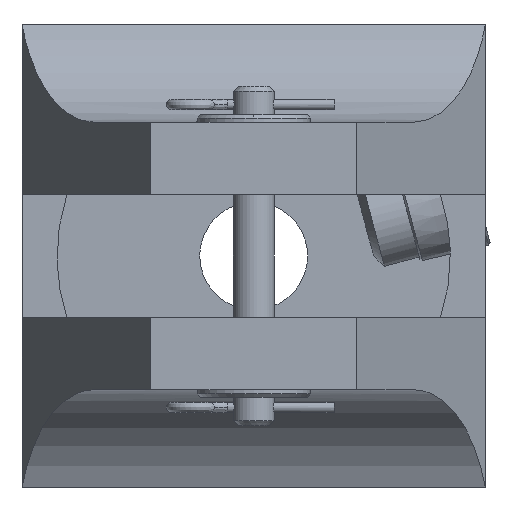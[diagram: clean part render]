
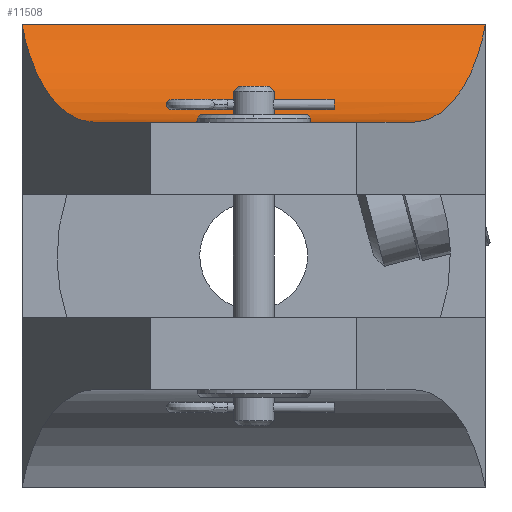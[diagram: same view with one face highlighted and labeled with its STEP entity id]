
A CAD part, front view. The second image highlights one B-rep face of the part: STEP entity #11508.
In plain terms, the highlighted cylindrical face has radius 14 mm (diameter 28 mm), a partial arc.
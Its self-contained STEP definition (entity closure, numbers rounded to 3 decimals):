
#589 = CARTESIAN_POINT ( 'NONE',  ( -199.017, 14.008, -107.137 ) ) ;
#600 = B_SPLINE_CURVE_WITH_KNOTS ( 'NONE', 3,
 ( #14745, #4829, #7685, #17612, #9119, #589, #10522, #2022, #11946, #3444, #13375, #4889, #14801, #6316, #16244, #7747, #17669, #9168, #644, #10577, #2072, #11999, #3503, #13431, #4941, #14857 ),
 .UNSPECIFIED., .F., .F.,
 ( 4, 2, 2, 2, 2, 2, 2, 2, 2, 2, 2, 2, 4 ),
 ( 0., 0.002, 0.004, 0.005, 0.006, 0.007, 0.008, 0.01, 0.011, 0.012, 0.013, 0.014, 0.015 ),
 .UNSPECIFIED. ) ;
#644 = CARTESIAN_POINT ( 'NONE',  ( -191.628, 13.42, -107.266 ) ) ;
#702 = CYLINDRICAL_SURFACE ( 'NONE', #11587, 14. ) ;
#781 = VECTOR ( 'NONE', #4514, 1000. ) ;
#919 = CARTESIAN_POINT ( 'NONE',  ( -218.467, 10.743, -93.522 ) ) ;
#1340 = CARTESIAN_POINT ( 'NONE',  ( -180.102, 10.743, -107.522 ) ) ;
#1401 = CARTESIAN_POINT ( 'NONE',  ( -173.197, 24., -98.022 ) ) ;
#1598 = CARTESIAN_POINT ( 'NONE',  ( -211.48, 10.743, -107.522 ) ) ;
#2022 = CARTESIAN_POINT ( 'NONE',  ( -198.185, 14.469, -107.018 ) ) ;
#2072 = CARTESIAN_POINT ( 'NONE',  ( -190.982, 12.725, -107.384 ) ) ;
#2262 = VECTOR ( 'NONE', #12049, 1000. ) ;
#2343 = DIRECTION ( 'NONE',  ( 1., 0., 0. ) ) ;
#2718 = LINE ( 'NONE', #13492, #2262 ) ;
#2842 = DIRECTION ( 'NONE',  ( -1., 0., 0. ) ) ;
#3026 = CARTESIAN_POINT ( 'NONE',  ( -180.102, 10.743, -107.522 ) ) ;
#3444 = CARTESIAN_POINT ( 'NONE',  ( -197.285, 14.795, -106.923 ) ) ;
#3503 = CARTESIAN_POINT ( 'NONE',  ( -190.448, 11.924, -107.475 ) ) ;
#4038 = FACE_OUTER_BOUND ( 'NONE', #8846, .T. ) ;
#4150 = CARTESIAN_POINT ( 'NONE',  ( -218.197, 24., -98.022 ) ) ;
#4463 =( BOUNDED_CURVE ( )  B_SPLINE_CURVE ( 3, ( #6953, #5522, #8391, #18303 ),
 .UNSPECIFIED., .F., .F. ) 
 B_SPLINE_CURVE_WITH_KNOTS ( ( 4, 4 ),
 ( 1.571, 2.814 ),
 .UNSPECIFIED. ) 
 CURVE ( )  GEOMETRIC_REPRESENTATION_ITEM ( )  RATIONAL_B_SPLINE_CURVE ( ( 1., 0.875, 0.875, 1. ) ) 
 REPRESENTATION_ITEM ( '' )  );
#4514 = DIRECTION ( 'NONE',  ( -1., 0., 0. ) ) ;
#4599 = LINE ( 'NONE', #1598, #781 ) ;
#4719 = VERTEX_POINT ( 'NONE', #4150 ) ;
#4829 = CARTESIAN_POINT ( 'NONE',  ( -201.251, 11.362, -107.522 ) ) ;
#4889 = CARTESIAN_POINT ( 'NONE',  ( -196.34, 14.974, -106.868 ) ) ;
#4941 = CARTESIAN_POINT ( 'NONE',  ( -190.05, 11.052, -107.522 ) ) ;
#5522 = CARTESIAN_POINT ( 'NONE',  ( -214.528, 16.954, -107.522 ) ) ;
#5997 = VERTEX_POINT ( 'NONE', #3026 ) ;
#6316 = CARTESIAN_POINT ( 'NONE',  ( -195.05, 15., -106.859 ) ) ;
#6865 = ORIENTED_EDGE ( 'NONE', *, *, #10878, .T. ) ;
#6953 = CARTESIAN_POINT ( 'NONE',  ( -211.293, 10.743, -107.522 ) ) ;
#7543 = EDGE_CURVE ( 'NONE', #5997, #10408, #9252, .T. ) ;
#7570 =( BOUNDED_CURVE ( )  B_SPLINE_CURVE ( 3, ( #1340, #15557, #9906, #1401 ),
 .UNSPECIFIED., .F., .F. ) 
 B_SPLINE_CURVE_WITH_KNOTS ( ( 4, 4 ),
 ( 4.712, 5.956 ),
 .UNSPECIFIED. ) 
 CURVE ( )  GEOMETRIC_REPRESENTATION_ITEM ( )  RATIONAL_B_SPLINE_CURVE ( ( 1., 0.875, 0.875, 1. ) ) 
 REPRESENTATION_ITEM ( '' )  );
#7670 = EDGE_CURVE ( 'NONE', #17791, #17758, #4599, .T. ) ;
#7685 = CARTESIAN_POINT ( 'NONE',  ( -200.971, 11.933, -107.481 ) ) ;
#7747 = CARTESIAN_POINT ( 'NONE',  ( -193.201, 14.494, -107.012 ) ) ;
#8391 = CARTESIAN_POINT ( 'NONE',  ( -217.157, 22.003, -103.904 ) ) ;
#8637 = CARTESIAN_POINT ( 'NONE',  ( -211.48, 10.743, -107.522 ) ) ;
#8659 = CARTESIAN_POINT ( 'NONE',  ( -173.197, 24., -98.022 ) ) ;
#8846 = EDGE_LOOP ( 'NONE', ( #13051, #8893, #16884, #6865, #13317, #17556 ) ) ;
#8893 = ORIENTED_EDGE ( 'NONE', *, *, #10725, .T. ) ;
#9119 = CARTESIAN_POINT ( 'NONE',  ( -199.787, 13.437, -107.266 ) ) ;
#9168 = CARTESIAN_POINT ( 'NONE',  ( -191.868, 13.63, -107.223 ) ) ;
#9252 = LINE ( 'NONE', #8637, #16811 ) ;
#9906 = CARTESIAN_POINT ( 'NONE',  ( -174.237, 22.003, -103.904 ) ) ;
#10301 = CARTESIAN_POINT ( 'NONE',  ( -201.439, 10.743, -107.522 ) ) ;
#10408 = VERTEX_POINT ( 'NONE', #13930 ) ;
#10522 = CARTESIAN_POINT ( 'NONE',  ( -198.746, 14.177, -107.095 ) ) ;
#10577 = CARTESIAN_POINT ( 'NONE',  ( -191.185, 12.968, -107.346 ) ) ;
#10725 = EDGE_CURVE ( 'NONE', #17791, #10408, #600, .T. ) ;
#10878 = EDGE_CURVE ( 'NONE', #5997, #12480, #7570, .T. ) ;
#11508 = ADVANCED_FACE ( 'NONE', ( #4038 ), #702, .F. ) ;
#11587 = AXIS2_PLACEMENT_3D ( 'NONE', #919, #2343, #15076 ) ;
#11705 = EDGE_CURVE ( 'NONE', #12480, #4719, #2718, .T. ) ;
#11946 = CARTESIAN_POINT ( 'NONE',  ( -197.893, 14.593, -106.983 ) ) ;
#11999 = CARTESIAN_POINT ( 'NONE',  ( -190.613, 12.202, -107.448 ) ) ;
#12049 = DIRECTION ( 'NONE',  ( -1., 0., 0. ) ) ;
#12480 = VERTEX_POINT ( 'NONE', #8659 ) ;
#13051 = ORIENTED_EDGE ( 'NONE', *, *, #7670, .F. ) ;
#13159 = CARTESIAN_POINT ( 'NONE',  ( -211.293, 10.743, -107.522 ) ) ;
#13317 = ORIENTED_EDGE ( 'NONE', *, *, #11705, .T. ) ;
#13375 = CARTESIAN_POINT ( 'NONE',  ( -196.971, 14.872, -106.899 ) ) ;
#13431 = CARTESIAN_POINT ( 'NONE',  ( -190.168, 11.35, -107.512 ) ) ;
#13492 = CARTESIAN_POINT ( 'NONE',  ( -218.467, 24., -98.022 ) ) ;
#13738 = EDGE_CURVE ( 'NONE', #17758, #4719, #4463, .T. ) ;
#13930 = CARTESIAN_POINT ( 'NONE',  ( -189.956, 10.743, -107.522 ) ) ;
#14745 = CARTESIAN_POINT ( 'NONE',  ( -201.439, 10.743, -107.522 ) ) ;
#14801 = CARTESIAN_POINT ( 'NONE',  ( -196.021, 15., -106.859 ) ) ;
#14857 = CARTESIAN_POINT ( 'NONE',  ( -189.956, 10.743, -107.522 ) ) ;
#15076 = DIRECTION ( 'NONE',  ( 0., 0., -1. ) ) ;
#15557 = CARTESIAN_POINT ( 'NONE',  ( -176.867, 16.954, -107.522 ) ) ;
#16244 = CARTESIAN_POINT ( 'NONE',  ( -194.422, 14.898, -106.893 ) ) ;
#16811 = VECTOR ( 'NONE', #2842, 1000. ) ;
#16884 = ORIENTED_EDGE ( 'NONE', *, *, #7543, .F. ) ;
#17556 = ORIENTED_EDGE ( 'NONE', *, *, #13738, .F. ) ;
#17612 = CARTESIAN_POINT ( 'NONE',  ( -200.23, 12.983, -107.352 ) ) ;
#17669 = CARTESIAN_POINT ( 'NONE',  ( -192.638, 14.201, -107.094 ) ) ;
#17758 = VERTEX_POINT ( 'NONE', #13159 ) ;
#17791 = VERTEX_POINT ( 'NONE', #10301 ) ;
#18303 = CARTESIAN_POINT ( 'NONE',  ( -218.197, 24., -98.022 ) ) ;
